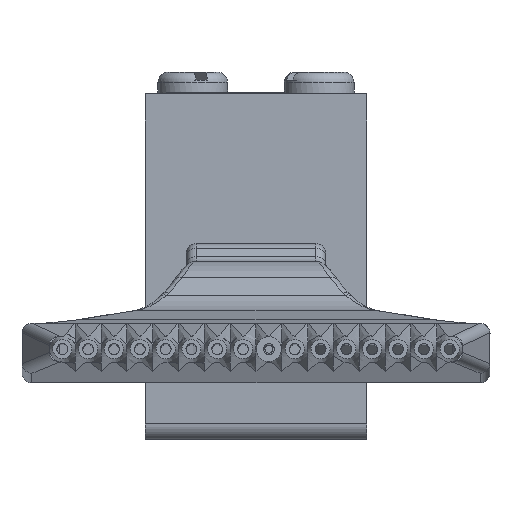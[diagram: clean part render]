
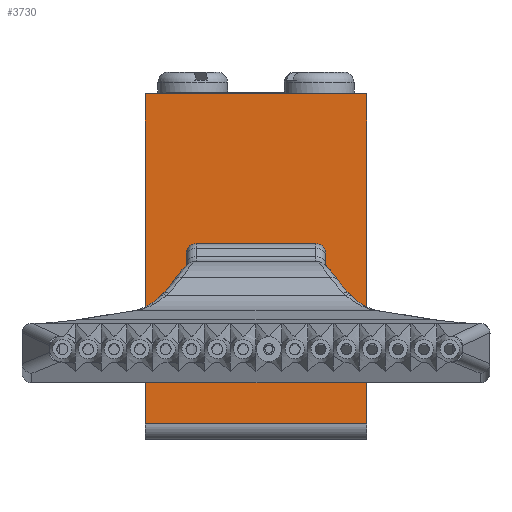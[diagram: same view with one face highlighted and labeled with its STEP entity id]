
A CAD part, front view. The second image highlights one B-rep face of the part: STEP entity #3730.
In plain terms, the highlighted planar face has unit normal (0, -1, 0).
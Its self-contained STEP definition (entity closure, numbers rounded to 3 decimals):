
#3730=ADVANCED_FACE('', (#3740,#3750), #3760, .T.);
#34510=AXIS2_PLACEMENT_3D('Ax2Pl3d', #34520, #34530, #34540);
#42350=AXIS2_PLACEMENT_3D('Ax2Pl3d', #42360, #42370, #42380);
#122380=CARTESIAN_POINT('', (231.238,143.034,-132.737)
);
#122390=CARTESIAN_POINT('', (253.438,143.034,-132.737)
);
#122400=CARTESIAN_POINT('', (253.438,143.034,-132.737)
);
#34520=CARTESIAN_POINT('HicPkt', (242.338,143.034,
-154.837));
#123350=CARTESIAN_POINT('', (235.76,143.034,-154.837)
);
#125240=CARTESIAN_POINT('', (231.238,143.034,-132.737)
);
#125250=CARTESIAN_POINT('', (231.238,143.034,-135.737)
);
#125290=CARTESIAN_POINT('', (231.238,143.034,-165.937)
);
#125300=CARTESIAN_POINT('', (231.238,143.034,-135.737)
);
#125380=CARTESIAN_POINT('', (253.438,143.034,-132.737)
);
#125390=CARTESIAN_POINT('', (253.438,143.034,-135.737)
);
#125400=CARTESIAN_POINT('', (253.438,143.034,-135.737)
);
#125410=CARTESIAN_POINT('', (253.438,143.034,-165.937)
);
#125450=CARTESIAN_POINT('', (253.438,143.034,-165.937)
);
#42360=CARTESIAN_POINT('HicPkt', (253.438,143.034,
-135.737));
#160590=CIRCLE('Circle', #34510, 6.579);
#246420=DIRECTION('', (1.,0.,0.));
#34530=DIRECTION('Axis', (0.,-1.,
0.));
#34540=DIRECTION('RefDirection', (0.,
0.,-1.));
#247400=DIRECTION('', (0.,0.,1.));
#247420=DIRECTION('', (0.,0.,1.));
#247460=DIRECTION('', (0.,0.,1.));
#247470=DIRECTION('', (0.,0.,1.));
#247480=DIRECTION('', (1.,0.,0.));
#42370=DIRECTION('Axis', (0.,-1.,
0.));
#42380=DIRECTION('RefDirection', (0.,
0.,-1.));
#266720=EDGE_CURVE('', #266700, #266730, #266740, .T.);
#268550=EDGE_CURVE('', #268560, #268560, #160590, .T.);
#272350=EDGE_CURVE('', #272360, #266700, #272370, .T.);
#272450=EDGE_CURVE('', #272440, #272360, #272460, .T.);
#272600=EDGE_CURVE('', #272610, #266730, #272620, .T.);
#272630=EDGE_CURVE('', #272640, #272610, #272650, .T.);
#272730=EDGE_CURVE('', #272440, #272640, #272740, .T.);
#338210=EDGE_LOOP('Edge_loop', (#338220,#338230,#338240,#338250,#338260,
#338270));
#338280=EDGE_LOOP('Edge_loop', (#338290));
#3750=FACE_BOUND('', #338280, .T.);
#3740=FACE_OUTER_BOUND('Face_outer_bound', #338210, .T.);
#266740=LINE('Line', #122390, #406470);
#272370=LINE('Line', #125240, #407450);
#272460=LINE('Line', #125300, #407470);
#272620=LINE('Line', #125380, #407510);
#272650=LINE('Line', #125400, #407520);
#272740=LINE('Line', #125450, #407530);
#338220=ORIENTED_EDGE('', *, *, #266720, .F.);
#338230=ORIENTED_EDGE('', *, *, #272350, .F.);
#338240=ORIENTED_EDGE('', *, *, #272450, .F.);
#338250=ORIENTED_EDGE('', *, *, #272730, .T.);
#338260=ORIENTED_EDGE('', *, *, #272630, .T.);
#338270=ORIENTED_EDGE('', *, *, #272600, .T.);
#338290=ORIENTED_EDGE('', *, *, #268550, .F.);
#3760=PLANE('Plane', #42350);
#406470=VECTOR('', #246420, 22.2);
#407450=VECTOR('', #247400, 3.);
#407470=VECTOR('', #247420, 30.2);
#407510=VECTOR('', #247460, 3.);
#407520=VECTOR('', #247470, 30.2);
#407530=VECTOR('', #247480, 22.2);
#266700=VERTEX_POINT('', #122380);
#266730=VERTEX_POINT('', #122400);
#268560=VERTEX_POINT('', #123350);
#272360=VERTEX_POINT('', #125250);
#272440=VERTEX_POINT('', #125290);
#272610=VERTEX_POINT('', #125390);
#272640=VERTEX_POINT('', #125410);
